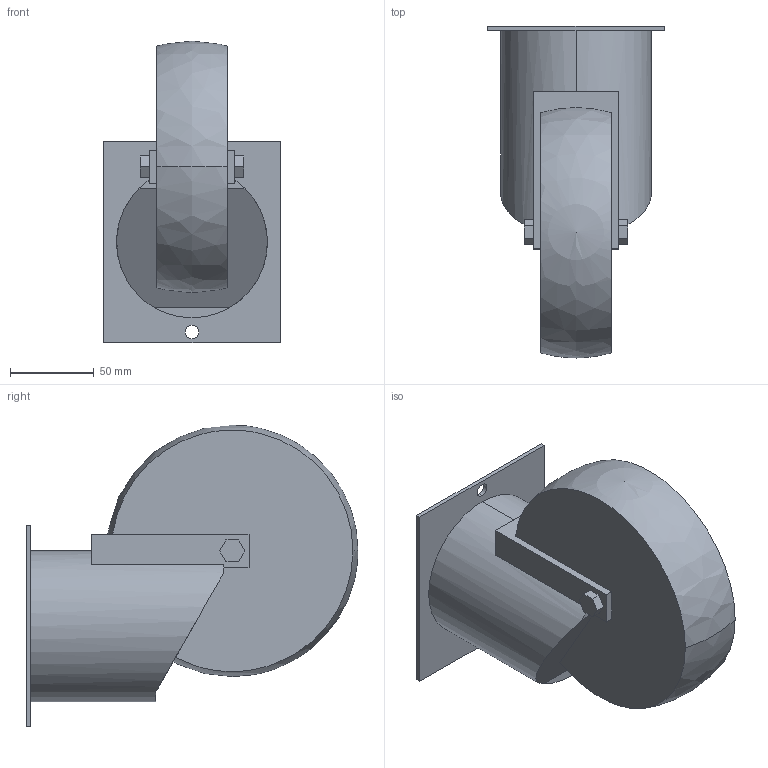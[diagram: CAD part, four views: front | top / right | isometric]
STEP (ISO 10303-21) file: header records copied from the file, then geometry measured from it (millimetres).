
FILE_DESCRIPTION (( 'STEP AP214' ), '1' );
FILE_NAME ('ST-150_ST-150VU.step', '2024-02-19T02:12:01', ( 'catia' ), ( 'HP Inc.' ), 'SwSTEP 2.0', 'SolidWorks 2021', '' );
FILE_SCHEMA (( 'AUTOMOTIVE_DESIGN' ));
Length unit declared in the file: millimetre
Products named in the file (1): ST-150_ST-150VU
Bounding box: 105 x 198 x 180 mm (x, y, z)
Volume: 1271598 mm3; surface area: 94148.8 mm2
Topology: 1 solids, 1 shells, 42 faces, 116 edges, 77 vertices
Faces by surface type: plane 34, cylinder 6, sphere 2
Entity records: 1340 total; most frequent: CARTESIAN_POINT 234, ORIENTED_EDGE 222, DIRECTION 218, EDGE_CURVE 111, LINE 86, VECTOR 86, VERTEX_POINT 74, AXIS2_PLACEMENT_3D 66
